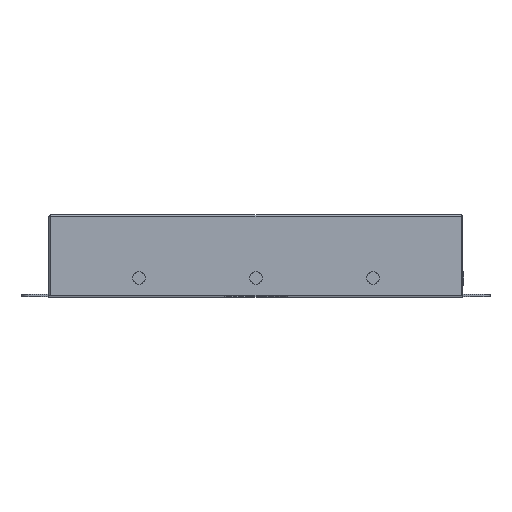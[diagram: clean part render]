
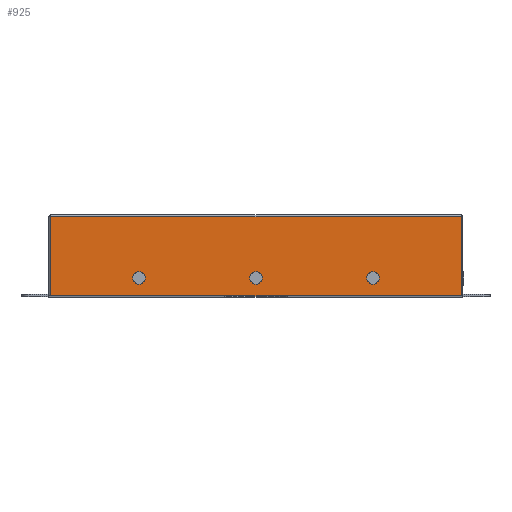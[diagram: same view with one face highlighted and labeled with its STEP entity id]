
A CAD part, top view. The second image highlights one B-rep face of the part: STEP entity #925.
In plain terms, the highlighted planar face has unit normal (0, 0, 1).
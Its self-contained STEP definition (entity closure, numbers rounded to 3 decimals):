
#2 = CARTESIAN_POINT ( 'NONE',  ( 65., 6.55, 165. ) ) ;
#146 = DIRECTION ( 'NONE',  ( 0., -1., 0. ) ) ;
#182 = CARTESIAN_POINT ( 'NONE',  ( -115., 7.25, 165. ) ) ;
#187 = DIRECTION ( 'NONE',  ( 0., 0., -1. ) ) ;
#196 = DIRECTION ( 'NONE',  ( 0., 0., -1. ) ) ;
#221 = ORIENTED_EDGE ( 'NONE', *, *, #3869, .T. ) ;
#233 = DIRECTION ( 'NONE',  ( 0., -1., 0. ) ) ;
#283 = LINE ( 'NONE', #3197, #1999 ) ;
#315 = VERTEX_POINT ( 'NONE', #1113 ) ;
#409 = DIRECTION ( 'NONE',  ( 1., 0., 0. ) ) ;
#411 = AXIS2_PLACEMENT_3D ( 'NONE', #3762, #1845, #1824 ) ;
#440 = AXIS2_PLACEMENT_3D ( 'NONE', #507, #3395, #146 ) ;
#507 = CARTESIAN_POINT ( 'NONE',  ( 65., 10., 165. ) ) ;
#706 = EDGE_CURVE ( 'NONE', #315, #3878, #1704, .T. ) ;
#732 = FACE_BOUND ( 'NONE', #2597, .T. ) ;
#799 = EDGE_CURVE ( 'NONE', #2060, #2275, #1421, .T. ) ;
#836 = DIRECTION ( 'NONE',  ( 0., 1., 0. ) ) ;
#873 = CARTESIAN_POINT ( 'NONE',  ( 0., 10., 165. ) ) ;
#925 = ADVANCED_FACE ( 'NONE', ( #1049, #732, #3090, #1793 ), #2030, .T. ) ;
#938 = DIRECTION ( 'NONE',  ( -1., 0., 0. ) ) ;
#939 = VECTOR ( 'NONE', #836, 1000. ) ;
#1003 = VECTOR ( 'NONE', #409, 1000. ) ;
#1049 = FACE_BOUND ( 'NONE', #4087, .T. ) ;
#1113 = CARTESIAN_POINT ( 'NONE',  ( 0., 6.55, 165. ) ) ;
#1165 = VERTEX_POINT ( 'NONE', #1831 ) ;
#1204 = AXIS2_PLACEMENT_3D ( 'NONE', #873, #196, #4090 ) ;
#1328 = EDGE_CURVE ( 'NONE', #3615, #2549, #2704, .T. ) ;
#1402 = ORIENTED_EDGE ( 'NONE', *, *, #3832, .T. ) ;
#1421 = CIRCLE ( 'NONE', #2707, 3.45 ) ;
#1457 = CIRCLE ( 'NONE', #3630, 3.45 ) ;
#1473 = DIRECTION ( 'NONE',  ( 1., 0., 0. ) ) ;
#1482 = EDGE_CURVE ( 'NONE', #2549, #3730, #3791, .T. ) ;
#1549 = EDGE_CURVE ( 'NONE', #3730, #2102, #283, .T. ) ;
#1685 = EDGE_LOOP ( 'NONE', ( #2830, #3619 ) ) ;
#1704 = CIRCLE ( 'NONE', #411, 3.45 ) ;
#1710 = ORIENTED_EDGE ( 'NONE', *, *, #1328, .T. ) ;
#1726 = ORIENTED_EDGE ( 'NONE', *, *, #2284, .T. ) ;
#1793 = FACE_OUTER_BOUND ( 'NONE', #2768, .T. ) ;
#1815 = DIRECTION ( 'NONE',  ( 0., 0., 1. ) ) ;
#1824 = DIRECTION ( 'NONE',  ( 0., -1., 0. ) ) ;
#1831 = CARTESIAN_POINT ( 'NONE',  ( -65., 6.55, 165. ) ) ;
#1845 = DIRECTION ( 'NONE',  ( 0., 0., -1. ) ) ;
#1887 = ORIENTED_EDGE ( 'NONE', *, *, #1482, .T. ) ;
#1930 = EDGE_CURVE ( 'NONE', #3878, #315, #2288, .T. ) ;
#1999 = VECTOR ( 'NONE', #938, 1000. ) ;
#2010 = CARTESIAN_POINT ( 'NONE',  ( -114., 0., 165. ) ) ;
#2030 = PLANE ( 'NONE',  #2975 ) ;
#2060 = VERTEX_POINT ( 'NONE', #2 ) ;
#2078 = CARTESIAN_POINT ( 'NONE',  ( 114., 44., 165. ) ) ;
#2102 = VERTEX_POINT ( 'NONE', #3031 ) ;
#2204 = DIRECTION ( 'NONE',  ( 0., -1., 0. ) ) ;
#2275 = VERTEX_POINT ( 'NONE', #4123 ) ;
#2284 = EDGE_CURVE ( 'NONE', #2275, #2060, #3290, .T. ) ;
#2288 = CIRCLE ( 'NONE', #1204, 3.45 ) ;
#2291 = ORIENTED_EDGE ( 'NONE', *, *, #799, .T. ) ;
#2301 = EDGE_CURVE ( 'NONE', #1165, #2750, #1457, .T. ) ;
#2367 = VECTOR ( 'NONE', #3148, 1000. ) ;
#2509 = ORIENTED_EDGE ( 'NONE', *, *, #1549, .T. ) ;
#2549 = VERTEX_POINT ( 'NONE', #2983 ) ;
#2568 = DIRECTION ( 'NONE',  ( 0., 0., -1. ) ) ;
#2597 = EDGE_LOOP ( 'NONE', ( #3319, #221 ) ) ;
#2704 = LINE ( 'NONE', #3986, #1003 ) ;
#2707 = AXIS2_PLACEMENT_3D ( 'NONE', #4167, #3206, #2204 ) ;
#2750 = VERTEX_POINT ( 'NONE', #3839 ) ;
#2768 = EDGE_LOOP ( 'NONE', ( #2509, #1402, #1710, #1887 ) ) ;
#2830 = ORIENTED_EDGE ( 'NONE', *, *, #706, .T. ) ;
#2844 = CARTESIAN_POINT ( 'NONE',  ( -114., 7.25, 165. ) ) ;
#2884 = CARTESIAN_POINT ( 'NONE',  ( 0., 13.45, 165. ) ) ;
#2975 = AXIS2_PLACEMENT_3D ( 'NONE', #182, #1815, #1473 ) ;
#2983 = CARTESIAN_POINT ( 'NONE',  ( 114., 0., 165. ) ) ;
#3031 = CARTESIAN_POINT ( 'NONE',  ( -114., 44., 165. ) ) ;
#3045 = AXIS2_PLACEMENT_3D ( 'NONE', #3124, #2568, #233 ) ;
#3090 = FACE_BOUND ( 'NONE', #1685, .T. ) ;
#3124 = CARTESIAN_POINT ( 'NONE',  ( -65., 10., 165. ) ) ;
#3148 = DIRECTION ( 'NONE',  ( 0., -1., 0. ) ) ;
#3197 = CARTESIAN_POINT ( 'NONE',  ( -115., 44., 165. ) ) ;
#3206 = DIRECTION ( 'NONE',  ( 0., 0., -1. ) ) ;
#3290 = CIRCLE ( 'NONE', #440, 3.45 ) ;
#3319 = ORIENTED_EDGE ( 'NONE', *, *, #2301, .T. ) ;
#3383 = CIRCLE ( 'NONE', #3045, 3.45 ) ;
#3395 = DIRECTION ( 'NONE',  ( 0., 0., -1. ) ) ;
#3483 = DIRECTION ( 'NONE',  ( 0., -1., 0. ) ) ;
#3615 = VERTEX_POINT ( 'NONE', #2010 ) ;
#3619 = ORIENTED_EDGE ( 'NONE', *, *, #1930, .T. ) ;
#3630 = AXIS2_PLACEMENT_3D ( 'NONE', #3801, #187, #3483 ) ;
#3730 = VERTEX_POINT ( 'NONE', #2078 ) ;
#3752 = CARTESIAN_POINT ( 'NONE',  ( 114., 7.25, 165. ) ) ;
#3762 = CARTESIAN_POINT ( 'NONE',  ( 0., 10., 165. ) ) ;
#3791 = LINE ( 'NONE', #3752, #939 ) ;
#3801 = CARTESIAN_POINT ( 'NONE',  ( -65., 10., 165. ) ) ;
#3832 = EDGE_CURVE ( 'NONE', #2102, #3615, #4147, .T. ) ;
#3839 = CARTESIAN_POINT ( 'NONE',  ( -65., 13.45, 165. ) ) ;
#3869 = EDGE_CURVE ( 'NONE', #2750, #1165, #3383, .T. ) ;
#3878 = VERTEX_POINT ( 'NONE', #2884 ) ;
#3986 = CARTESIAN_POINT ( 'NONE',  ( 0., 0., 165. ) ) ;
#4087 = EDGE_LOOP ( 'NONE', ( #2291, #1726 ) ) ;
#4090 = DIRECTION ( 'NONE',  ( 0., -1., 0. ) ) ;
#4123 = CARTESIAN_POINT ( 'NONE',  ( 65., 13.45, 165. ) ) ;
#4147 = LINE ( 'NONE', #2844, #2367 ) ;
#4167 = CARTESIAN_POINT ( 'NONE',  ( 65., 10., 165. ) ) ;
